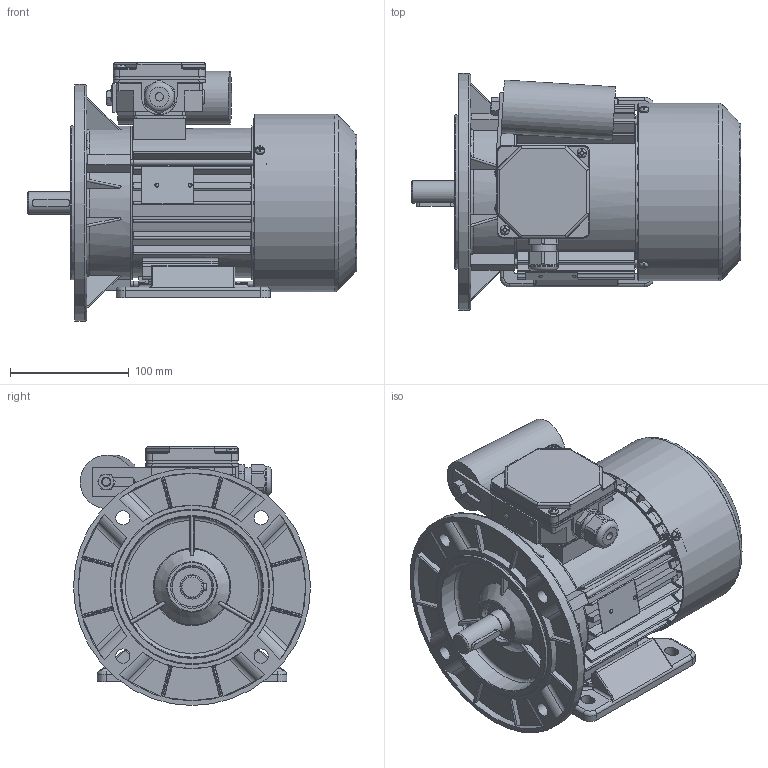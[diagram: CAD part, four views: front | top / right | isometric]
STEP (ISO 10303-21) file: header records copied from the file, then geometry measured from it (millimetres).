
FILE_DESCRIPTION( ( 'Unknown' ), '1' );
FILE_NAME( 'G:/Poczta Tk-1/STP/w.m.80/SEh80/SELh80-.B.stp', 'Unknown', ( 'K. Szlosek' ), ( 'BESEL S.A.' ), 'PSStep 17.0.49', 'Unknown', ' ' );
FILE_SCHEMA( ( 'AUTOMOTIVE_DESIGN { 1 0 10303 214 1 1 1 1 }' ) );
Length unit declared in the file: millimetre
Products named in the file (34): Assem1; K1-1257 Kadłub S(E,M)h80-A i B; Kondensator zb 25-31,5uF Comar; K3-2964 Osłona przewietrznika Sh80,90; K2-0860 Pokrywka skrzynki zaciskowej; K4-2320 Uszczelka nr 1 Sh71,80; K3-4616 wał standard Sh80-B; K3-6857 Tarcza łożyskowa P S(E,M)h80-B,D; K1-1258  zmiana Tarcza kołnierzowa B5 SKh80-..; Wkręt samogwintujący M4x8; Wpust A6x6x32; K2-1131 Podstawa skrzynki zaciskowej jednofazowa; K4-2820 Uszczelka nr 2 Sh71,80; Wkręt samogwintujący M4x16; K4-0898 Tulejka uszczelniająca; nakrętka M8; Nit 4x12 po skróceniu; Nitokołek A 2x6; K3-4025 Przewietrznik Sg,h80; K4-2999 Uchwyt kondensatora; Dławnica M20x1,5; Tabliczka znamionowa 32x44; Łożysko 6204; Śruba ściągająca E_M5x130; K1-0437 Łapa Sh80-.. 
Assembly tree (50 placements, depth 2):
  Assem1
    K1-1257 Kadłub S(E,M)h80-A i B
    Kondensator zb 25-31,5uF Comar
    K3-2964 Osłona przewietrznika Sh80,90
    K2-0860 Pokrywka skrzynki zaciskowej
    K4-2320 Uszczelka nr 1 Sh71,80
    K3-4616 wał standard Sh80-B
    K3-6857 Tarcza łożyskowa P S(E,M)h80-B,D
    K1-1258  zmiana Tarcza kołnierzowa B5 SKh80-..
    Wkręt samogwintujący M4x8  x3
    Wpust A6x6x32
    K2-1131 Podstawa skrzynki zaciskowej jednofazowa
    K4-2820 Uszczelka nr 2 Sh71,80
    Wkręt samogwintujący M4x16  x2
    K4-0898 Tulejka uszczelniająca
    nakrętka M8
    Nit 4x12 po skróceniu  x2
    Nitokołek A 2x6  x2
    K3-4025 Przewietrznik Sg,h80
    K4-2999 Uchwyt kondensatora
    Dławnica M20x1,5
    Tabliczka znamionowa 32x44
    Łożysko 6204  x2
    Łożysko 6204  x2
    Łożysko 6204  x2
    Łożysko 6204  x2
    Łożysko 6204  x2
    Łożysko 6204  x2
    Łożysko 6204  x2
    Łożysko 6204  x2
    Łożysko 6204  x2
    Łożysko 6204  x2
    Śruba ściągająca E_M5x130  x3
    K1-0437 Łapa Sh80-.. 
Bounding box: 277.8 x 200 x 218.5 mm (x, y, z)
Volume: 1255752.9 mm3; surface area: 632343.2 mm2
Topology: 50 solids, 66 shells, 2788 faces, 7593 edges, 4920 vertices
Faces by surface type: plane 1356, cylinder 926, torus 202, cone 153, bspline 113, sphere 38
Full cylindrical faces by diameter (mm): 2 x2, 2.4 x2, 3 x1, 3.7 x11, 4 x8, 4.134 x3, 4.3 x2, 4.5 x3, 4.6 x3, 4.8 x4, 5 x7, 5.5 x3, 6 x2, 6.5 x5, 6.647 x1, 7 x1, 8 x10, 10 x2, 12 x4, 18.376 x1, 18.38 x1, 19 x1, 19.3 x1, 19.5 x1, 19.9 x1, 20 x3, 20.3 x2, 20.4 x4, 22.3 x1, 25 x1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
Entity records: 137364 total; most frequent: CARTESIAN_POINT 50640, ORIENTED_EDGE 13672, DIRECTION 13339, EDGE_CURVE 6836, AXIS2_PLACEMENT_3D 4888, VERTEX_POINT 4582, LINE 3563, VECTOR 3563
